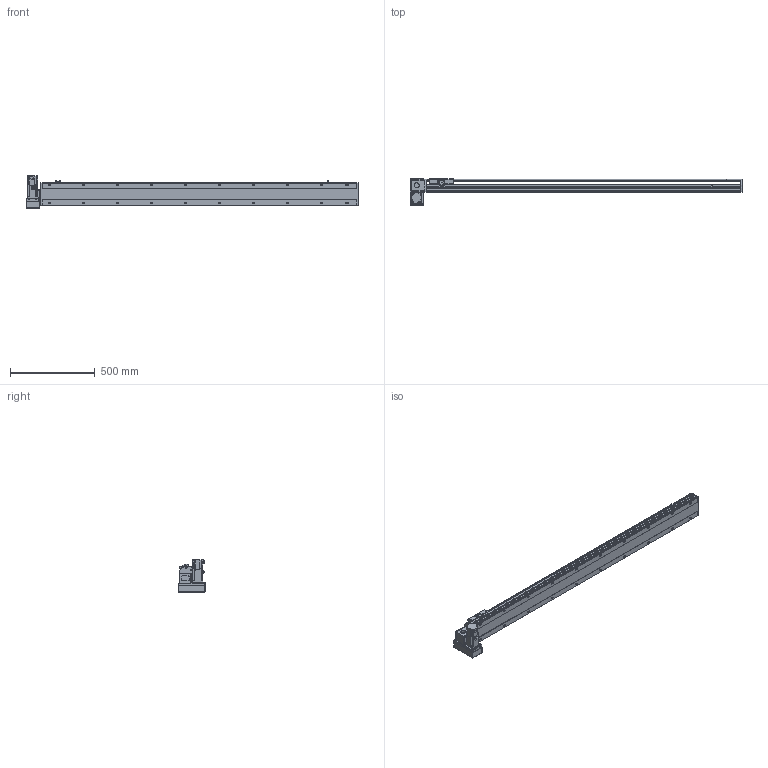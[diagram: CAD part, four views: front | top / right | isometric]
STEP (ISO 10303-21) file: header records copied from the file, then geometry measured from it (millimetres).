
FILE_DESCRIPTION( ( 'STEP AP214' ), '1' );
FILE_NAME( 'x:/temp/worker_27/temp/exporttempdir_6708_571_BjQ87/format_0/PBS140-P40-S1600-LD-T40-C1-N(0).stp', '2022-06-06T05:55:35', ( 'License CC BY-ND 4.0' ), ( 'CADENAS' ), ' ', 'PARTsolutions', ' ' );
FILE_SCHEMA( ( 'AUTOMOTIVE_DESIGN { 1 0 10303 214 1 1 1 1 }' ) );
Length unit declared in the file: millimetre
Products named in the file (7): PBS140-P40-S1600-LD-T40-C1-N(0); _PBS140-S1600()_body; _PBS140T-LD_motors; _T40-p1; _PBS140_sliser; _PBS140_plant; _PBS140_sensor
Assembly tree (8 placements, depth 2):
  PBS140-P40-S1600-LD-T40-C1-N(0)
    _PBS140-S1600()_body
    _PBS140T-LD_motors
    _T40-p1
    _PBS140_sliser
    _PBS140_plant
    _PBS140_sensor  x3
Bounding box: 1954 x 162 x 189.7 mm (x, y, z)
Volume: 9028383.4 mm3; surface area: 1555655.6 mm2
Topology: 8 solids, 8 shells, 1107 faces, 2916 edges, 1905 vertices
Faces by surface type: plane 704, cylinder 347, cone 46, sphere 8, torus 2
Full cylindrical faces by diameter (mm): 3.242 x4, 4 x2, 4.134 x4, 4.4 x8, 4.5 x2, 4.8 x4, 4.917 x28, 5.5 x7, 6 x2, 7 x22, 7.5 x8, 8 x12, 8.5 x4, 10.5 x20, 14 x1, 30 x2, 50 x2
Entity records: 40573 total; most frequent: CARTESIAN_POINT 6587, DIRECTION 5337, ORIENTED_EDGE 5032, EDGE_CURVE 2516, AXIS2_PLACEMENT_3D 1867, VERTEX_POINT 1749, LINE 1603, VECTOR 1603
